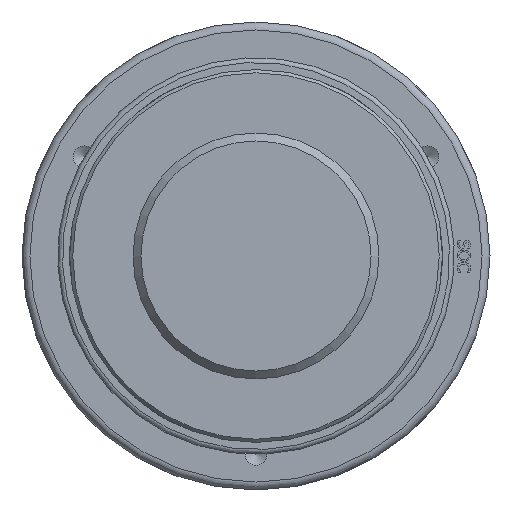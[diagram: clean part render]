
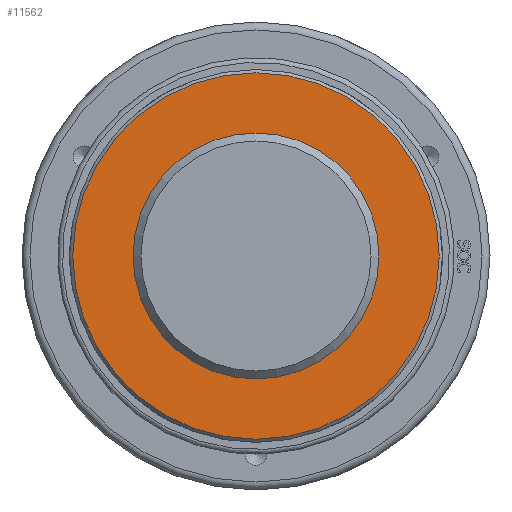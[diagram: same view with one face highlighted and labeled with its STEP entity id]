
A CAD part, front view. The second image highlights one B-rep face of the part: STEP entity #11562.
In plain terms, the highlighted planar face has unit normal (0, -1, 0) as drawn and (0, 1, 0) by its records, which use the part's own axes.
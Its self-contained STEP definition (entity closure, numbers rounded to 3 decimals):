
#90=CIRCLE('',#12173,115.5);
#92=CIRCLE('',#12177,74.253);
#171=FACE_BOUND('',#2267,.T.);
#1558=FACE_OUTER_BOUND('',#2266,.T.);
#2266=EDGE_LOOP('',(#9172));
#2267=EDGE_LOOP('',(#9173));
#5204=VERTEX_POINT('',#17714);
#5218=VERTEX_POINT('',#17954);
#6635=EDGE_CURVE('',#5204,#5204,#90,.T.);
#6649=EDGE_CURVE('',#5218,#5218,#92,.T.);
#9172=ORIENTED_EDGE('',*,*,#6635,.F.);
#9173=ORIENTED_EDGE('',*,*,#6649,.T.);
#11121=PLANE('',#12176);
#11562=ADVANCED_FACE('',(#1558,#171),#11121,.T.);
#12173=AXIS2_PLACEMENT_3D('',#17715,#13240,#13241);
#12176=AXIS2_PLACEMENT_3D('',#17953,#13246,#13247);
#12177=AXIS2_PLACEMENT_3D('',#17955,#13248,#13249);
#13240=DIRECTION('center_axis',(0.,-1.,0.));
#13241=DIRECTION('ref_axis',(1.,0.,0.));
#13246=DIRECTION('center_axis',(0.,1.,0.));
#13247=DIRECTION('ref_axis',(0.,0.,1.));
#13248=DIRECTION('center_axis',(0.,-1.,0.));
#13249=DIRECTION('ref_axis',(1.,0.,0.));
#17714=CARTESIAN_POINT('',(-115.5,77.5,0.));
#17715=CARTESIAN_POINT('Origin',(0.,77.5,0.));
#17953=CARTESIAN_POINT('Origin',(0.,77.5,0.));
#17954=CARTESIAN_POINT('',(-74.253,77.5,0.));
#17955=CARTESIAN_POINT('Origin',(0.,77.5,0.));
